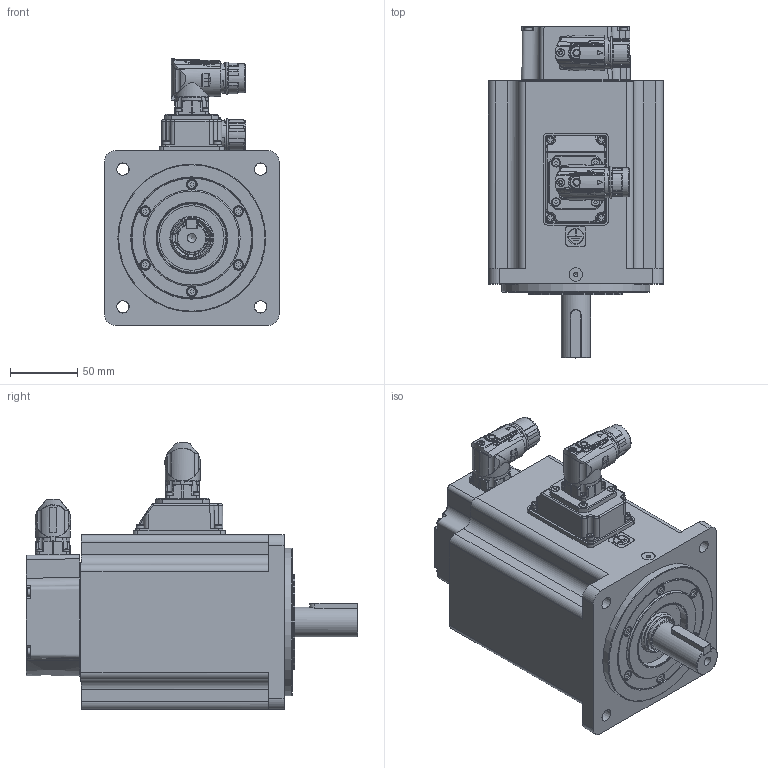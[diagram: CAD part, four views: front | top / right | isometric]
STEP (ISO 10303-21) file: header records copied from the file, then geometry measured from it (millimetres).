
FILE_DESCRIPTION( ( 'Unknown' ), '1' );
FILE_NAME( 'U:/05_Progetto TCE/010-TCE motor drawings/TCE130/Vuoti/TCE130 5F XX 3 A2 1 C2.stp', 'Unknown', ( 'Unknown' ), ( 'Unknown' ), 'PSStep 17.0.49', 'Unknown', ' ' );
FILE_SCHEMA( ( 'AUTOMOTIVE_DESIGN { 1 0 10303 214 1 1 1 1 }' ) );
Length unit declared in the file: millimetre
Products named in the file (13): 003103001510
Bounding box: 130.3 x 247 x 198.5 mm (x, y, z)
Volume: 1132724.2 mm3; surface area: 338622 mm2
Topology: 13 solids, 91 shells, 3008 faces, 7512 edges, 4844 vertices
Faces by surface type: plane 1465, cylinder 734, cone 297, bspline 230, torus 163, sphere 81, extrusion 38
Full cylindrical faces by diameter (mm): 0.5 x1, 1 x21, 1.2 x17, 1.4 x4, 2 x4, 2.013 x4, 2.2 x2, 2.459 x24, 2.5 x10, 2.6 x4, 2.8 x4, 3 x29, 3.2 x1, 3.242 x30, 3.5 x8, 4 x15, 4.134 x8, 4.4 x4, 4.5 x8, 4.7 x4, 5 x8, 5.5 x19, 5.8 x1, 5.9 x2, 6.647 x2, 6.8 x1, 7 x10, 8 x13, 8.5 x8, 10 x1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
Entity records: 124362 total; most frequent: CARTESIAN_POINT 38022, DIRECTION 13252, ORIENTED_EDGE 12878, EDGE_CURVE 6439, AXIS2_PLACEMENT_3D 4973, VERTEX_POINT 4565, EDGE_LOOP 3999, FACE_OUTER_BOUND 3479
